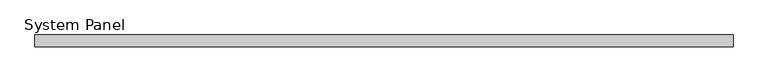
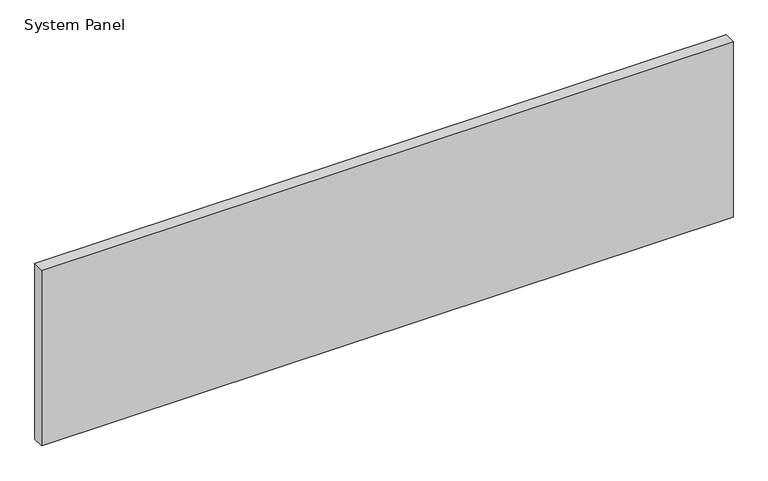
"""IFC4 building model written with IfcOpenShell, lengths in millimetres: plate geometry, System Panel : Glazed - ACMP (AL-1)."""

from ifc_helpers import new_model, si_unit, origin, origin_with_axes, place, context, project, spatial, polyline, outline, extrude, source, transform, mapped, element, save


def system_panel_eef064e7(model_context):
    return source(origin(), model_context, "Body", "SweptSolid", [
        extrude(outline(polyline([(755.65, 0.0), (-755.65, 0.0), (-755.65, 25.4), (755.65, 25.4), (755.65, 0.0)])), origin_with_axes(), (0.0, 0.0, 1.0), 406.3999976),
    ])


if __name__ == "__main__":
    model = new_model("IFC4")
    model_context = context("Model", 3, world=origin())
    ifc_project = project(units=[si_unit("LENGTHUNIT", "METRE", prefix="MILLI")], contexts=[model_context])
    site = spatial("IfcSite", under=ifc_project)
    building = spatial("IfcBuilding", under=site)
    placement = place(None, origin())
    system_panel_shape = system_panel_eef064e7(model_context)
    element("IfcPlate", 1, ObjectType="System Panel : Glazed - ACMP (AL-1)", at=placement, inside=building, context=model_context, shape_type="MappedRepresentation", body=[
        mapped(system_panel_shape, transform((0.0, 0.0, 0.0), x_axis=(1.0, 0.0, 0.0), y_axis=(0.0, 1.0, 0.0), z_axis=(0.0, 0.0, 1.0))),
    ])
    save(model, "model.ifc")
